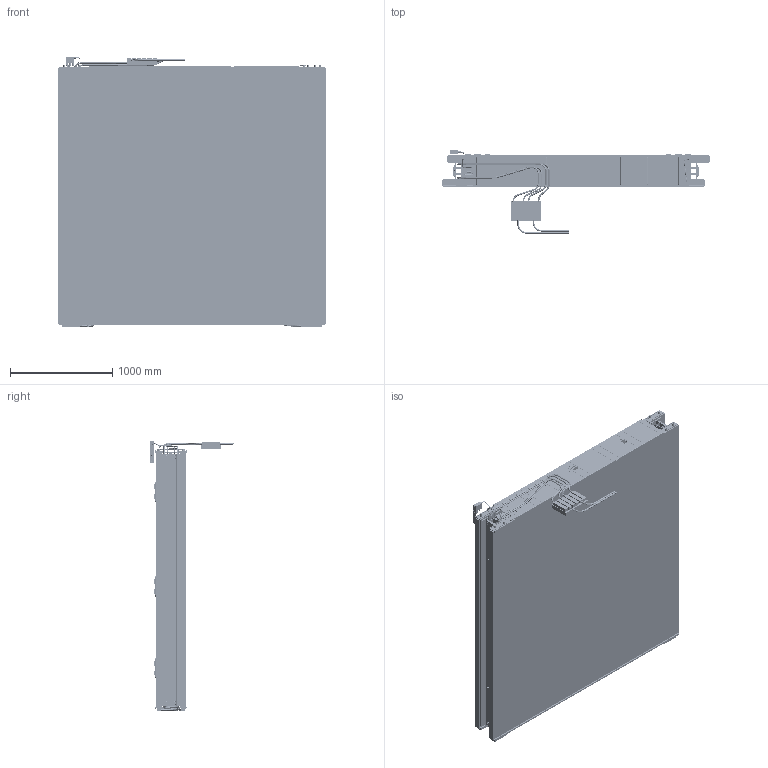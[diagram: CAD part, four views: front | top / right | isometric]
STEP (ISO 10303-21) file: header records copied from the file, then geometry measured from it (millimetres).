
FILE_DESCRIPTION(/* description */ (''),/* implementation_level */ '2;1');
FILE_NAME(/* name */ '040209_mb410_2_4_10_sx_phi_R_carters.stp',/* time_stamp */ '2022-04-13T17:16:21+02:00',/* author */ (''),/* organization */ (''),/* preprocessor_version */ 'ST-DEVELOPER v18.1',/* originating_system */ 'SIEMENS PLM Software NX 1992',/* authorisation */ '');
FILE_SCHEMA (('AUTOMOTIVE_DESIGN { 1 0 10303 214 3 1 1 1 }'));
Products named in the file (1): zago2B10850Da2uw
Bounding box: 2612 x 815.65 x 2646.02 mm (x, y, z)
Volume: 1728356926.5 mm3; surface area: 146639248.5 mm2
Topology: 254 solids, 254 shells, 10894 faces, 27769 edges, 17414 vertices
Faces by surface type: plane 6717, cylinder 3290, cone 685, bspline 109, torus 69, sphere 24
Full cylindrical faces by diameter (mm): 1 x148, 1.675 x8, 2.594 x36, 3 x48, 3.2 x8, 3.25 x2, 3.3 x24, 3.432 x324, 3.5 x38, 4 x34, 4.351 x4, 4.8 x33, 5 x54, 5.188 x44, 5.5 x216, 6 x26, 6.4 x48, 6.5 x17, 7 x2, 7.188 x4, 7.5 x48, 8 x41, 8.6 x4, 8.8 x10, 8.933 x16, 8.985 x24, 9 x2, 9.061 x1, 9.391 x72, 9.5 x66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
Entity records: 339382 total; most frequent: CARTESIAN_POINT 81486, DIRECTION 49456, ORIENTED_EDGE 48562, EDGE_CURVE 24281, AXIS2_PLACEMENT_3D 17444, VERTEX_POINT 16434, EDGE_LOOP 15437, LINE 14568
